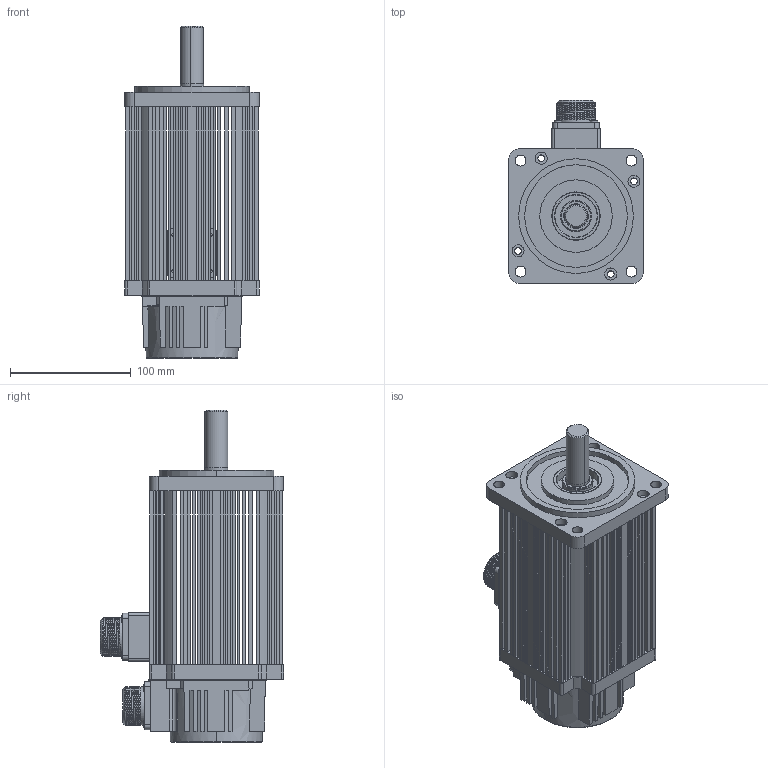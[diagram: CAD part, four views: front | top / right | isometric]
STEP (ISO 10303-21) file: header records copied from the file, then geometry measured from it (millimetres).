
FILE_DESCRIPTION (( 'STEP AP203' ), '1' );
FILE_NAME ('110ST-M06030.STEP', '2016-09-07T01:11:49', ( 'abc' ), ( 'Microsoft' ), 'SwSTEP 2.0', 'SolidWorks 2014', '' );
FILE_SCHEMA (( 'CONFIG_CONTROL_DESIGN' ));
Length unit declared in the file: millimetre
Products named in the file (1): 110ST-M06030
Bounding box: 111.2 x 151.6 x 275 mm (x, y, z)
Surface area: 202893.9 mm2 (no closed solid volume)
Topology: 0 solids, 64 shells, 670 faces, 2009 edges, 1422 vertices
Faces by surface type: plane 383, cylinder 238, sphere 25, torus 14, cone 8, bspline 2
Entity records: 24995 total; most frequent: CARTESIAN_POINT 7625, DIRECTION 3643, ORIENTED_EDGE 3129, EDGE_CURVE 1934, VERTEX_POINT 1372, LINE 1239, VECTOR 1239, AXIS2_PLACEMENT_3D 1202
